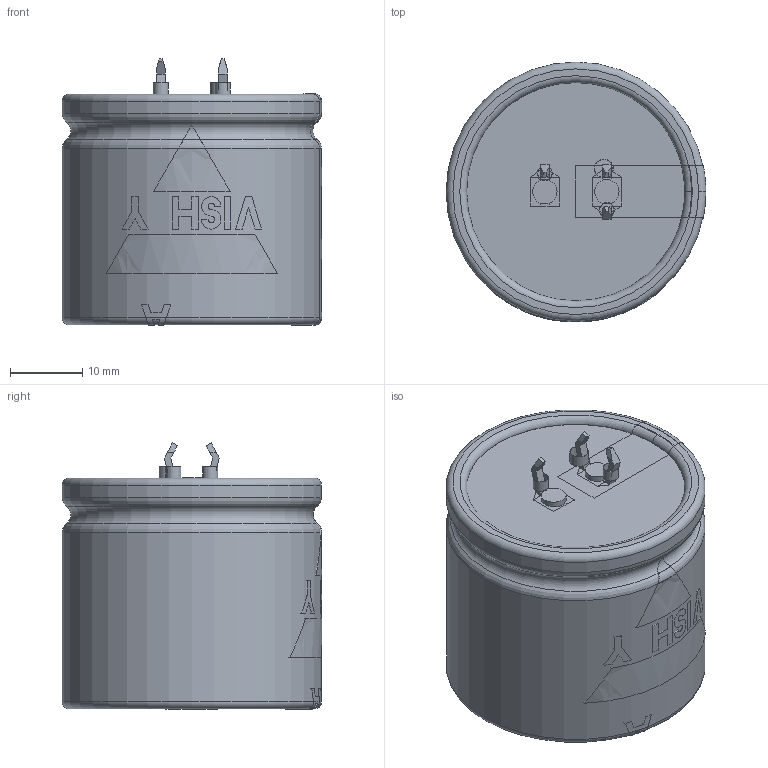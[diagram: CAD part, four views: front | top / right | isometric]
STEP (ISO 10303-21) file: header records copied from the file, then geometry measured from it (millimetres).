
FILE_DESCRIPTION(('FreeCAD Model'),'2;1');
FILE_NAME( 'C:/Users/Gebruiker/Documents/FreeCAD/SnapIn_35x30_3pin_4.0.step', '2020-11-12T21:18:36',('Author'),(''), 'Open CASCADE STEP processor 6.8','FreeCAD','Unknown');
FILE_SCHEMA(('AUTOMOTIVE_DESIGN_CC2 { 1 2 10303 214 -1 1 5 4 }'));
Length unit declared in the file: millimetre
Products named in the file (9): ASSEMBLY; TerminalMinKP; PCBHolesKP; TerminalPlus; Disc; BottomInsulation; Can3D; InkMinusBar; InkLogo
Assembly tree (8 placements, depth 2):
  ASSEMBLY
    TerminalMinKP
    PCBHolesKP
    TerminalPlus
    Disc
    BottomInsulation
    Can3D
    InkMinusBar
    InkLogo
Bounding box: 36.05 x 36.05 x 36.95 mm (x, y, z)
Volume: 37894.8 mm3; surface area: 15093.9 mm2
Topology: 17 solids, 17 shells, 208 faces, 502 edges, 327 vertices
Faces by surface type: plane 154, cylinder 33, torus 21
Full cylindrical faces by diameter (mm): 2 x2, 2.1 x2, 2.5 x1, 2.6 x1, 3.4 x2, 28.8 x2, 30.3 x1, 36 x2
Entity records: 22891 total; most frequent: CARTESIAN_POINT 11687, DIRECTION 1723, ORIENTED_EDGE 1004, PCURVE 1004, DEFINITIONAL_REPRESENTATION 1004, LINE 935, VECTOR 935, EDGE_CURVE 502
